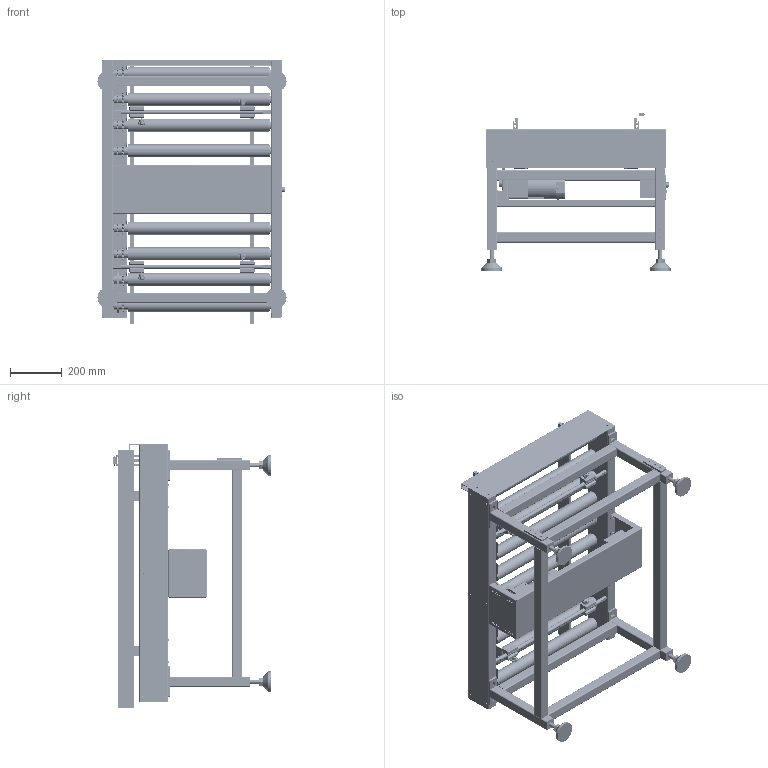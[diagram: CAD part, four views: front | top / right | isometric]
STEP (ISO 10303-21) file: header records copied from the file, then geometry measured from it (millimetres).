
FILE_DESCRIPTION (( 'STEP AP214' ), '1' );
FILE_NAME ('1000X500X500怀冞.STEP', '2025-10-10T05:37:06', ( '' ), ( '' ), 'SwSTEP 2.0', 'SolidWorks 2018', '' );
FILE_SCHEMA (( 'AUTOMOTIVE_DESIGN' ));
Length unit declared in the file: millimetre
Products named in the file (78): GTS01010; 覃厒ん; GTS01006; 陎倛參忒M6-20; GTS01009; 賑輸; D16-C150-80R; GTS01008; 湍坶踡賑輸; GTS01007; GT550; 5IK90RGU-CFT_2_1_1_1.STEP; GTS01004; PRT0002_1_1_1_1.STEP; 1000X500X500怀冞; 08B-Z12-d15-TD32-B20; LUOSITOU_2_1_1_1.STEP; GTS01002Z; 幗芠結晚; 08B-Z12-d15-TD32-B20_05B; GTS01005; 苤蟈沭; 湮蟈沭; GTS01002; 5IK120RGU-CF-5GUKB.STEP; 萇桉; 5IK120RGU-CF-5GUKB; GTS01001_默认<按加工>; GTS01001; GTS01011
Assembly tree (50 placements, depth 4):
  覃厒ん
  陎倛參忒M6-20
  賑輸
  D16-C150-80R
  GTS01008
Bounding box: 734 x 611.3 x 1023.5 mm (x, y, z)
Volume: 10928574 mm3; surface area: 7640214 mm2
Topology: 133 solids, 133 shells, 7153 faces, 20780 edges, 13399 vertices
Faces by surface type: cylinder 2941, plane 1892, torus 1336, sphere 411, cone 408, bspline 165
Entity records: 116927 total; most frequent: CARTESIAN_POINT 36342, ORIENTED_EDGE 16230, DIRECTION 15402, EDGE_CURVE 8115, AXIS2_PLACEMENT_3D 5600, VERTEX_POINT 5188, VECTOR 4202, LINE 4202
